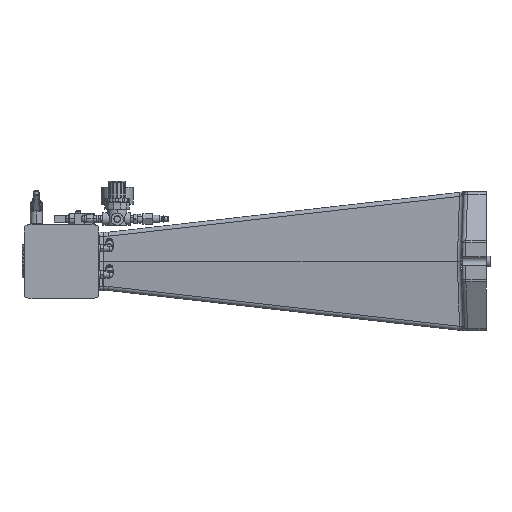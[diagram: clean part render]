
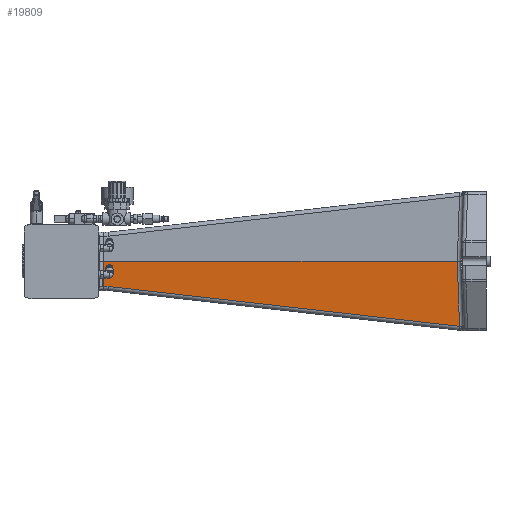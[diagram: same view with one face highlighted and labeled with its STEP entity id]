
A CAD part, left-side view. The second image highlights one B-rep face of the part: STEP entity #19809.
In plain terms, the highlighted planar face has unit normal (-0.996, 0.08, -0.035).
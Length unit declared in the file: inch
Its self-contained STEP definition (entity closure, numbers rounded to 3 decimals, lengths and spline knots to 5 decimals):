
#184 = DIRECTION ( 'NONE',  ( -0.08, -0.997, 0. ) ) ;
#742 = VERTEX_POINT ( 'NONE', #24968 ) ;
#872 = LINE ( 'NONE', #7759, #1814 ) ;
#1814 = VECTOR ( 'NONE', #20571, 39.37008 ) ;
#2994 = DIRECTION ( 'NONE',  ( -0.032, 0.035, 0.999 ) ) ;
#3694 = VECTOR ( 'NONE', #49155, 39.37008 ) ;
#6374 = ORIENTED_EDGE ( 'NONE', *, *, #9470, .T. ) ;
#6652 = VECTOR ( 'NONE', #2994, 39.37008 ) ;
#6879 = ORIENTED_EDGE ( 'NONE', *, *, #46433, .T. ) ;
#7213 = EDGE_CURVE ( 'Defeatured_1_114+Defeatured_1_289+Defeatured_1_393+Defeatured_1_291', #742, #44167, #48481, .T. ) ;
#7336 = LINE ( 'NONE', #22965, #6652 ) ;
#7759 = CARTESIAN_POINT ( 'NONE',  ( -5.30333, 23.36332, 0.51826 ) ) ;
#9031 = VERTEX_POINT ( 'NONE', #27921 ) ;
#9470 = EDGE_CURVE ( 'Defeatured_1_114+Defeatured_1_291+Defeatured_1_289+Defeatured_1_250', #44167, #28619, #15740, .T. ) ;
#10043 = CARTESIAN_POINT ( 'NONE',  ( -7.14289, 0.14554, 0. ) ) ;
#11766 = ORIENTED_EDGE ( 'NONE', *, *, #7213, .T. ) ;
#13479 = CARTESIAN_POINT ( 'NONE',  ( -7.09037, 0.14134, -1.50872 ) ) ;
#15740 = LINE ( 'NONE', #27997, #15924 ) ;
#15924 = VECTOR ( 'NONE', #50501, 39.37008 ) ;
#16558 = DIRECTION ( 'NONE',  ( -0.08, -0.997, 0. ) ) ;
#19607 = EDGE_CURVE ( 'Defeatured_1_114+Defeatured_1_250+Defeatured_1_291+Defeatured_1_113', #28619, #30147, #7336, .T. ) ;
#19641 = FACE_OUTER_BOUND ( 'NONE', #23073, .T. ) ;
#19809 = ADVANCED_FACE ( 'Defeatured_1_114', ( #19641 ), #35706, .T. ) ;
#20571 = DIRECTION ( 'NONE',  ( 0.037, 0.019, -0.999 ) ) ;
#22260 = ORIENTED_EDGE ( 'NONE', *, *, #25996, .T. ) ;
#22965 = CARTESIAN_POINT ( 'NONE',  ( -6.98227, 2.14974, -0.00742 ) ) ;
#23073 = EDGE_LOOP ( 'NONE', ( #6879, #22260, #11766, #6374, #34492 ) ) ;
#24278 = VECTOR ( 'NONE', #16558, 39.37008 ) ;
#24968 = CARTESIAN_POINT ( 'NONE',  ( -5.22917, 23.40269, -1.50872 ) ) ;
#25996 = EDGE_CURVE ( 'Defeatured_1_114+Defeatured_1_393+Defeatured_1_113+Defeatured_1_289', #9031, #742, #872, .T. ) ;
#26290 = CARTESIAN_POINT ( 'NONE',  ( -6.85678, 2.01381, -3.89992 ) ) ;
#27921 = CARTESIAN_POINT ( 'NONE',  ( -5.28437, 23.37339, 0. ) ) ;
#27997 = CARTESIAN_POINT ( 'NONE',  ( -6.96486, 0.59242, -4.06107 ) ) ;
#28619 = VERTEX_POINT ( 'NONE', #26290 ) ;
#30147 = VERTEX_POINT ( 'NONE', #43540 ) ;
#34492 = ORIENTED_EDGE ( 'NONE', *, *, #19607, .T. ) ;
#35211 = CARTESIAN_POINT ( 'NONE',  ( -7.14289, 0.14554, 0. ) ) ;
#35290 = AXIS2_PLACEMENT_3D ( 'NONE', #35211, #39499, #184 ) ;
#35706 = PLANE ( 'NONE',  #35290 ) ;
#39499 = DIRECTION ( 'NONE',  ( -0.996, 0.08, -0.035 ) ) ;
#43540 = CARTESIAN_POINT ( 'NONE',  ( -6.9825, 2.15, 0. ) ) ;
#44167 = VERTEX_POINT ( 'NONE', #44755 ) ;
#44755 = CARTESIAN_POINT ( 'NONE',  ( -5.25297, 23.10528, -1.50872 ) ) ;
#46433 = EDGE_CURVE ( 'Defeatured_1_114+Defeatured_1_113+Defeatured_1_250+Defeatured_1_393', #30147, #9031, #49416, .T. ) ;
#48481 = LINE ( 'NONE', #13479, #24278 ) ;
#49155 = DIRECTION ( 'NONE',  ( 0.08, 0.997, 0. ) ) ;
#49416 = LINE ( 'NONE', #10043, #3694 ) ;
#50501 = DIRECTION ( 'NONE',  ( -0.075, -0.991, -0.112 ) ) ;
